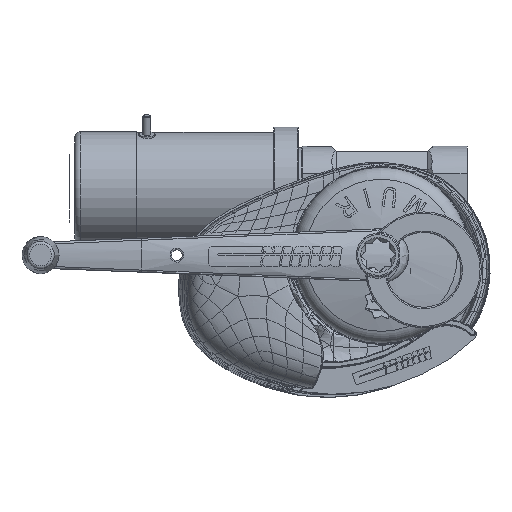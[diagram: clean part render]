
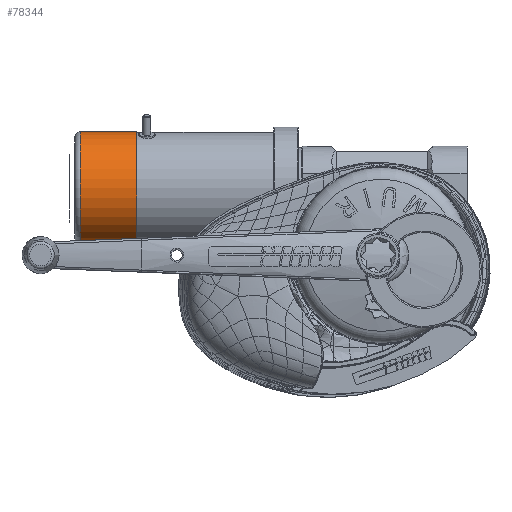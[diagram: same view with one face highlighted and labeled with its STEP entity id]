
A CAD part, top view. The second image highlights one B-rep face of the part: STEP entity #78344.
In plain terms, the highlighted cylindrical face has radius 41.6 mm (diameter 83.2 mm), a full revolution.
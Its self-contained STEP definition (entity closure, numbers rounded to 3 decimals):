
#2713=CYLINDRICAL_SURFACE('',#83720,41.6);
#9688=LINE('',#111234,#13137);
#13137=VECTOR('',#91044,41.6);
#17278=FACE_OUTER_BOUND('',#22303,.T.);
#22303=EDGE_LOOP('',(#52740,#52741,#52742,#52743,#52744));
#27522=CIRCLE('',#83715,41.6);
#27523=CIRCLE('',#83716,41.6);
#27526=CIRCLE('',#83721,41.6);
#30987=VERTEX_POINT('',#111222);
#30988=VERTEX_POINT('',#111224);
#30990=VERTEX_POINT('',#111233);
#39182=EDGE_CURVE('',#30987,#30988,#27522,.T.);
#39183=EDGE_CURVE('',#30988,#30987,#27523,.T.);
#39187=EDGE_CURVE('',#30988,#30990,#9688,.T.);
#39188=EDGE_CURVE('',#30990,#30990,#27526,.T.);
#52740=ORIENTED_EDGE('',*,*,#39183,.F.);
#52741=ORIENTED_EDGE('',*,*,#39187,.T.);
#52742=ORIENTED_EDGE('',*,*,#39188,.F.);
#52743=ORIENTED_EDGE('',*,*,#39187,.F.);
#52744=ORIENTED_EDGE('',*,*,#39182,.F.);
#78344=ADVANCED_FACE('',(#17278),#2713,.T.);
#83715=AXIS2_PLACEMENT_3D('',#111225,#91031,#91032);
#83716=AXIS2_PLACEMENT_3D('',#111226,#91033,#91034);
#83720=AXIS2_PLACEMENT_3D('',#111232,#91042,#91043);
#83721=AXIS2_PLACEMENT_3D('',#111235,#91045,#91046);
#91031=DIRECTION('center_axis',(-1.,0.,0.));
#91032=DIRECTION('ref_axis',(0.,0.,
-1.));
#91033=DIRECTION('center_axis',(-1.,0.,0.));
#91034=DIRECTION('ref_axis',(0.,0.,
-1.));
#91042=DIRECTION('center_axis',(-1.,0.,0.));
#91043=DIRECTION('ref_axis',(0.,0.,
-1.));
#91044=DIRECTION('',(1.,0.,0.));
#91045=DIRECTION('center_axis',(1.,0.,0.));
#91046=DIRECTION('ref_axis',(0.,0.,
-1.));
#111222=CARTESIAN_POINT('',(-134.767,107.571,-203.358));
#111224=CARTESIAN_POINT('',(-134.767,107.571,-120.158));
#111225=CARTESIAN_POINT('Origin',(-134.767,107.571,-161.758));
#111226=CARTESIAN_POINT('Origin',(-134.767,107.571,-161.758));
#111232=CARTESIAN_POINT('Origin',(-93.477,107.571,-161.758));
#111233=CARTESIAN_POINT('',(-93.477,107.571,-120.158));
#111234=CARTESIAN_POINT('',(-93.477,107.571,-120.158));
#111235=CARTESIAN_POINT('Origin',(-93.477,107.571,-161.758));
